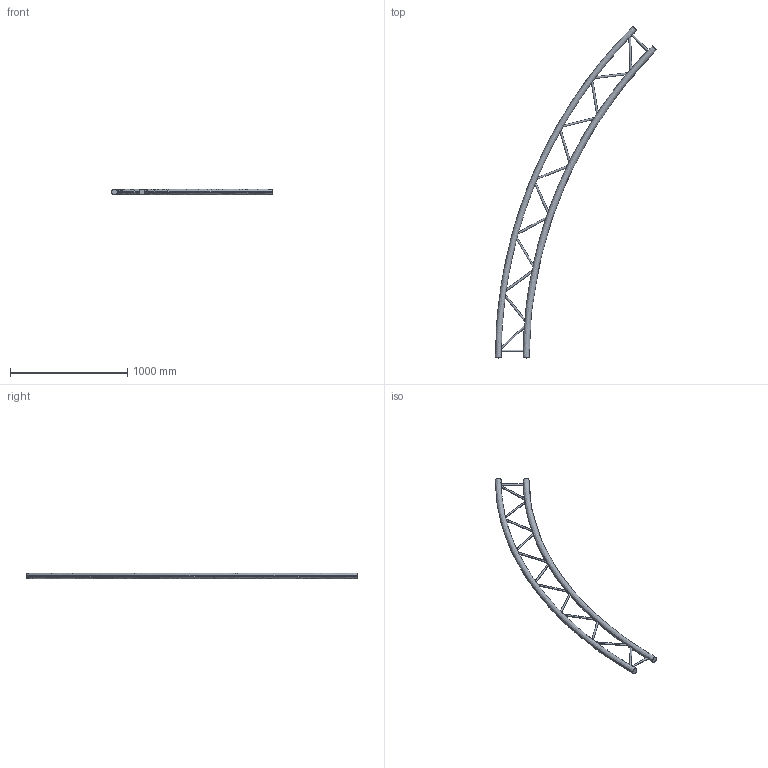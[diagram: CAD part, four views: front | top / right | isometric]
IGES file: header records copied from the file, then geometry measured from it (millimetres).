
Start section: SolidWorks IGES file using analytic representation for surfaces
Global section: file name: K:\BIBLIO\asd_biblio\EX290\Cercles\EXC290H\EXC29800H\EXC29800H.IGS; native system: SolidWorks 2009; preprocessor: SolidWorks 2009; author: des3; date: 091026.103710; units: millimetre
Bounding box: 1374.51 x 2828.43 x 50 mm (x, y, z)
Surface area: 1133575.4 mm2 (no closed solid volume)
Topology: 0 solids, 0 shells, 36 faces, 2491 edges, 2491 vertices
Faces by surface type: revolution 28, bspline 8
